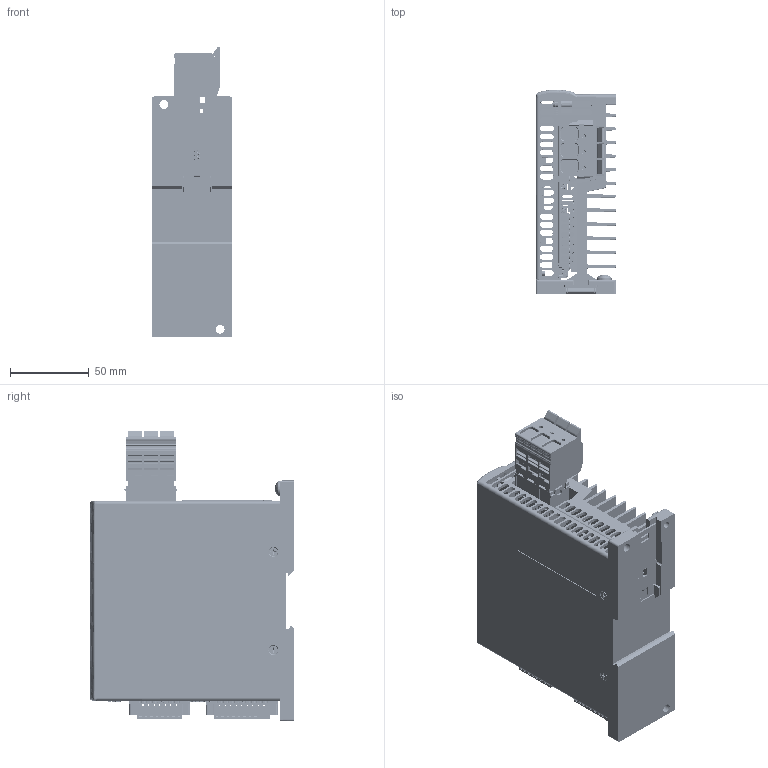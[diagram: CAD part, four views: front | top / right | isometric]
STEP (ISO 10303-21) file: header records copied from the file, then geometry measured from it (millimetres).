
FILE_DESCRIPTION(/* description */ (''),/* implementation_level */ '2;1');
FILE_NAME(/* name */ 'MicroFUSION 1-phase 8-32A.stp',/* time_stamp */ '2025-05-21T12:24:05-05:00',/* author */ ('PRD'),/* organization */ ('Control Concepts, Inc'),/* preprocessor_version */ 'ST-DEVELOPER v20',/* originating_system */ 'Autodesk Inventor 2025',/* authorisation */ '');
FILE_SCHEMA (('AUTOMOTIVE_DESIGN { 1 0 10303 214 3 1 1 }'));
Products named in the file (27): 3001436; 3001263; 3001253; 3001262; lightpipe rd1; lightpipe2; lightpipe3; lightpipe4; lightpipe5; lightpipe6; lightpipe structure; 3001265; 1001390H; FCI 10 PIN HEADER 20020111-c10; FCI 8 PIN HEADER 20020111-c08; 0057213-0400-03; 8057720-1002-02; P3cci1; FCI 10118075; 3001252; 0068101-0125-1100; 0060730-1032-0250; 0053030-0138-10-S; 0071000-0000-25_bent; 0053030-0138-08-S; 0060063-0030-0006; 0053109-0400-03
Assembly tree (31 placements, depth 4):
  3001436
    3001263
    3001253
    3001262
      lightpipe rd1
      lightpipe2
      lightpipe3
      lightpipe4
      lightpipe5
      lightpipe6  x4
      lightpipe structure
    3001265
    1001390H
      FCI 10 PIN HEADER 20020111-c10
      FCI 8 PIN HEADER 20020111-c08
      0057213-0400-03
      8057720-1002-02
      P3cci1
        FCI 10118075
    3001252
    0068101-0125-1100
    0060730-1032-0250
    0053030-0138-10-S
    0071000-0000-25_bent
    0053030-0138-08-S
    0060063-0030-0006  x3
    0053109-0400-03
Bounding box: 50.8 x 129.24 x 183.89 mm (x, y, z)
Volume: 311823.1 mm3; surface area: 222260.1 mm2
Topology: 77 solids, 80 shells, 7409 faces, 20250 edges, 13292 vertices
Faces by surface type: plane 5335, cylinder 1521, cone 270, bspline 172, torus 108, sphere 3
Full cylindrical faces by diameter (mm): 1.8 x4, 2 x32, 2.2 x6, 2.464 x13, 2.5 x12, 2.6 x4, 2.95 x18, 3 x6, 3.251 x1, 3.277 x4, 3.607 x4, 3.9 x4, 4.366 x1, 4.826 x1, 5.5 x3, 5.613 x2, 9.474 x1
Entity records: 273441 total; most frequent: CARTESIAN_POINT 82667, ORIENTED_EDGE 40084, DIRECTION 37317, EDGE_CURVE 20042, LINE 15199, VECTOR 15199, VERTEX_POINT 13174, AXIS2_PLACEMENT_3D 11059
